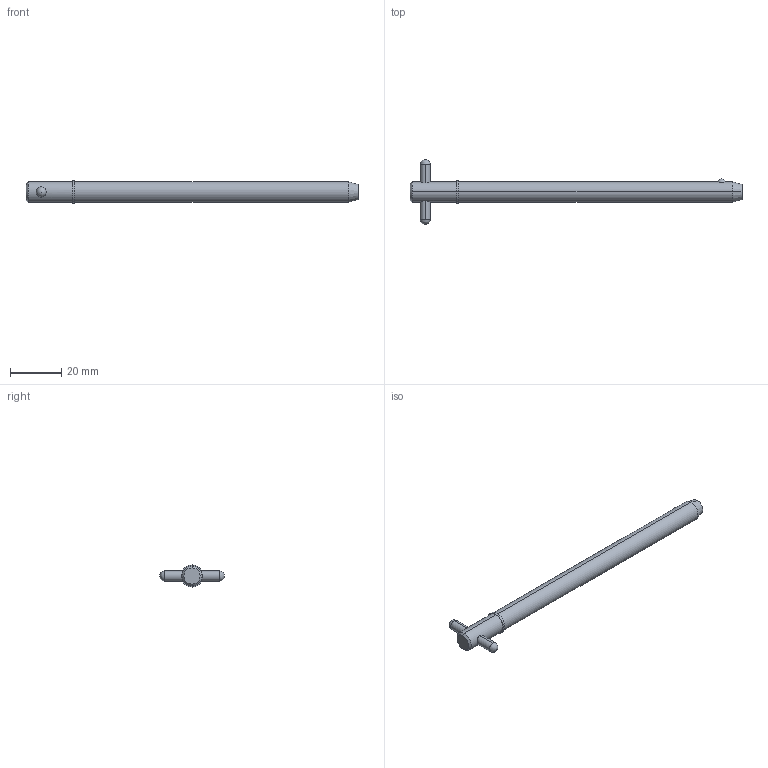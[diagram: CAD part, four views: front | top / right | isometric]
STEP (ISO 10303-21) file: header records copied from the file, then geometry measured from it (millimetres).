
FILE_DESCRIPTION (( 'STEP AP203' ), '1' );
FILE_NAME ('33018.W3140.step', '2024-11-19T17:10:05', ( '' ), ( '' ), 'SwSTEP 2.0', 'SolidWorks 2019', '' );
FILE_SCHEMA (( 'CONFIG_CONTROL_DESIGN' ));
Length unit declared in the file: millimetre
Products named in the file (3): Part2_33018.W3140; 33018.W3140; Part1_33018.W3140
Assembly tree (2 placements, depth 2):
  33018.W3140
    Part1_33018.W3140
    Part2_33018.W3140
Bounding box: 130.18 x 25.4 x 8.73 mm (x, y, z)
Volume: 6612 mm3; surface area: 3714.3 mm2
Topology: 2 solids, 2 shells, 22 faces, 47 edges, 30 vertices
Faces by surface type: cylinder 10, sphere 4, cone 4, plane 4
Entity records: 1013 total; most frequent: CARTESIAN_POINT 256, DIRECTION 110, ORIENTED_EDGE 82, AXIS2_PLACEMENT_3D 48, EDGE_CURVE 41, EDGE_LOOP 27, VERTEX_POINT 26, PERSON_AND_ORGANIZATION 26
